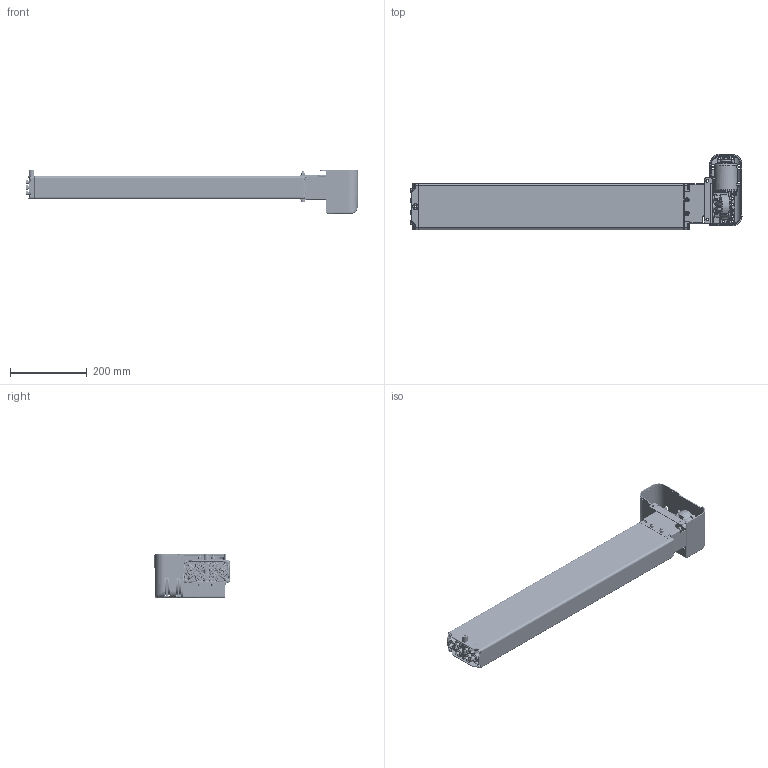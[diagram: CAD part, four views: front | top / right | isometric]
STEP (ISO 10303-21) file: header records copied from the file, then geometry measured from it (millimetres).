
FILE_DESCRIPTION(/* description */ ('Unknown'),/* implementation_level */ '2;1');
FILE_NAME(/* name */ '3X2.20045 Pumpe PB 6850 W mit Antrieb',/* time_stamp */ '2016-09-05T17:45:32+02:00',/* author */ ('Unknown'),/* organization */ ('Unknown'),/* preprocessor_version */ 'ST-DEVELOPER v16.7',/* originating_system */ 'DEX',/* authorisation */ $);
FILE_SCHEMA (('AUTOMOTIVE_DESIGN {1 0 10303 214 3 1 1}'));
Products named in the file (31): 102.20045; 115.00035; 125.00045; 115.00008; 142.00021; 125.00021; 142.00013; 125.00145; 115.00140; 126.00006; 122.00040; 119.00045; 126.00005; 127.00201; 127.00200; 127.00023; 124.00090; Getriebe; Ring; Schraube; Stator; Abdeckplatte; Antriebswelle; 128.00051; 123.00031; 142.00018; 142.00019; 142.00025; 142.00131; 123.00029; 142.00057
Assembly tree (47 placements, depth 3):
  102.20045
    115.00035  x6
      125.00045
      115.00008
      142.00021
      125.00021
    142.00013  x8
    125.00145
    115.00140
      126.00006
      122.00040
    119.00045
    126.00005
    127.00201
      127.00200
      127.00023
    124.00090
      Getriebe
      Ring
      Schraube
      Stator
      Abdeckplatte
      Antriebswelle
    128.00051
    123.00031
    142.00018  x2
    142.00019  x2
    142.00025  x2
    142.00131  x3
    123.00029
    142.00057
Bounding box: 865.42 x 196.04 x 115.45 mm (x, y, z)
Volume: 1378327.9 mm3; surface area: 905503.6 mm2
Topology: 52 solids, 54 shells, 4862 faces, 12306 edges, 7463 vertices
Faces by surface type: bspline 1367, plane 1333, cylinder 1277, cone 515, torus 270, sphere 100
Full cylindrical faces by diameter (mm): 2.5 x4, 3.2 x4, 3.5 x6, 3.9 x5, 4.1 x6, 4.2 x8, 4.4 x5, 4.5 x1, 4.917 x2, 5 x8, 5.5 x5, 6 x6, 6.4 x2, 6.8 x5, 6.917 x12, 7 x1, 8 x14, 8.5 x6, 9 x2, 9.5 x1, 9.8 x8, 10 x8, 10.3 x1, 10.32 x1, 10.4 x1, 11 x5, 14 x2, 14.4 x6, 15 x1, 17 x1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
Entity records: 202554 total; most frequent: CARTESIAN_POINT 105865, ORIENTED_EDGE 19210, DIRECTION 14206, EDGE_CURVE 9605, VERTEX_POINT 6188, AXIS2_PLACEMENT_3D 5593, FACE_BOUND 4587, EDGE_LOOP 4582
